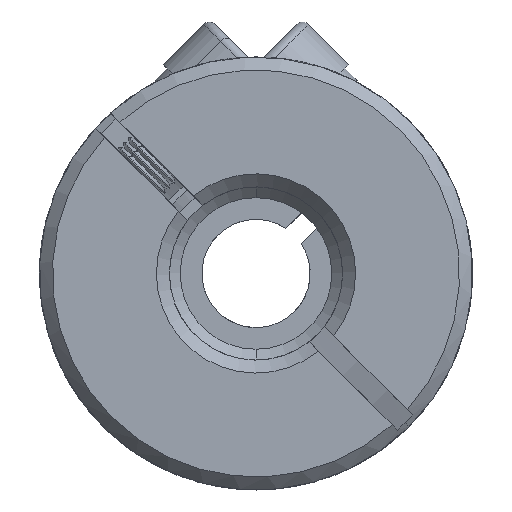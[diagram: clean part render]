
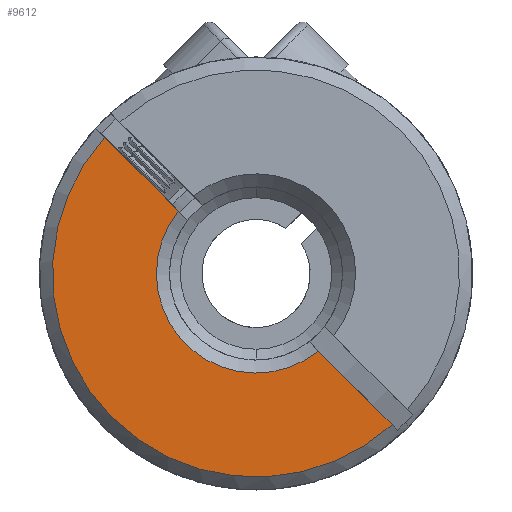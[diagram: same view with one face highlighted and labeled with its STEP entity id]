
A CAD part, front view. The second image highlights one B-rep face of the part: STEP entity #9612.
In plain terms, the highlighted planar face has unit normal (0, -1, 0).
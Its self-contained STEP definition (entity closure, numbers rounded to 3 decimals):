
#28 = EDGE_CURVE ( 'NONE', #3460, #96, #7379, .T. ) ;
#96 = VERTEX_POINT ( 'NONE', #7418 ) ;
#174 = EDGE_CURVE ( 'NONE', #13694, #3460, #3960, .T. ) ;
#182 = AXIS2_PLACEMENT_3D ( 'NONE', #2799, #12063, #8396 ) ;
#747 = CARTESIAN_POINT ( 'NONE',  ( 0., -11.2, 0. ) ) ;
#1141 = AXIS2_PLACEMENT_3D ( 'NONE', #747, #14677, #4195 ) ;
#1323 = CARTESIAN_POINT ( 'NONE',  ( 0.205, -11.2, -0.912 ) ) ;
#1635 = CARTESIAN_POINT ( 'NONE',  ( 0., -11.2, 0. ) ) ;
#2799 = CARTESIAN_POINT ( 'NONE',  ( 45.083, -11.2, 25.627 ) ) ;
#2871 = AXIS2_PLACEMENT_3D ( 'NONE', #1635, #2993, #6431 ) ;
#2993 = DIRECTION ( 'NONE',  ( 0., 1., 0. ) ) ;
#3460 = VERTEX_POINT ( 'NONE', #6155 ) ;
#3960 = CIRCLE ( 'NONE', #1141, 9.4 ) ;
#4195 = DIRECTION ( 'NONE',  ( -0.707, 0., 0.707 ) ) ;
#4749 = CARTESIAN_POINT ( 'NONE',  ( -8.839, -11.2, 8.132 ) ) ;
#5372 = VERTEX_POINT ( 'NONE', #7380 ) ;
#6132 = LINE ( 'NONE', #1323, #7929 ) ;
#6155 = CARTESIAN_POINT ( 'NONE',  ( 6.284, -11.2, -6.991 ) ) ;
#6431 = DIRECTION ( 'NONE',  ( -0.707, 0., 0.707 ) ) ;
#6528 = ORIENTED_EDGE ( 'NONE', *, *, #13258, .T. ) ;
#6565 = CARTESIAN_POINT ( 'NONE',  ( -6.991, -11.2, 6.284 ) ) ;
#7133 = DIRECTION ( 'NONE',  ( -0.707, 0., 0.707 ) ) ;
#7379 = LINE ( 'NONE', #4749, #13009 ) ;
#7380 = CARTESIAN_POINT ( 'NONE',  ( -3.587, -11.2, 2.88 ) ) ;
#7418 = CARTESIAN_POINT ( 'NONE',  ( 2.88, -11.2, -3.587 ) ) ;
#7431 = PLANE ( 'NONE',  #182 ) ;
#7579 = EDGE_LOOP ( 'NONE', ( #6528, #13056, #15037, #11032 ) ) ;
#7686 = EDGE_CURVE ( 'NONE', #96, #5372, #8198, .T. ) ;
#7929 = VECTOR ( 'NONE', #7133, 1000. ) ;
#8198 = CIRCLE ( 'NONE', #2871, 4.6 ) ;
#8396 = DIRECTION ( 'NONE',  ( -0.707, 0., 0.707 ) ) ;
#9394 = DIRECTION ( 'NONE',  ( -0.707, 0., 0.707 ) ) ;
#9612 = ADVANCED_FACE ( 'NONE', ( #12534 ), #7431, .T. ) ;
#11032 = ORIENTED_EDGE ( 'NONE', *, *, #7686, .T. ) ;
#12063 = DIRECTION ( 'NONE',  ( 0., -1., 0. ) ) ;
#12534 = FACE_OUTER_BOUND ( 'NONE', #7579, .T. ) ;
#13009 = VECTOR ( 'NONE', #9394, 1000. ) ;
#13056 = ORIENTED_EDGE ( 'NONE', *, *, #174, .T. ) ;
#13258 = EDGE_CURVE ( 'NONE', #5372, #13694, #6132, .T. ) ;
#13694 = VERTEX_POINT ( 'NONE', #6565 ) ;
#14677 = DIRECTION ( 'NONE',  ( 0., -1., 0. ) ) ;
#15037 = ORIENTED_EDGE ( 'NONE', *, *, #28, .T. ) ;
